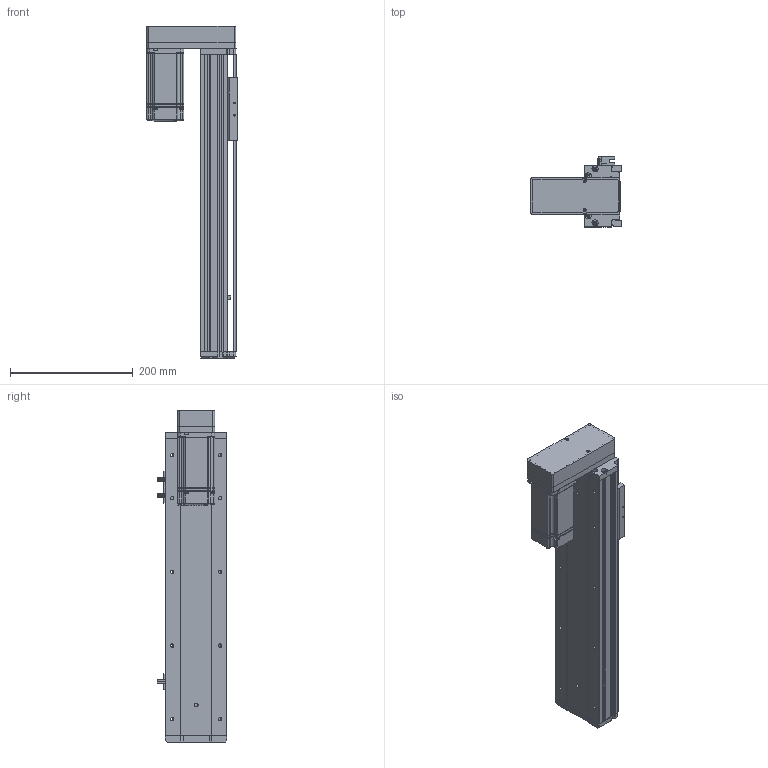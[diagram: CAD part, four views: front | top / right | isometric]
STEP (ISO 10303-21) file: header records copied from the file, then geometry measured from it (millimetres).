
FILE_DESCRIPTION (( 'STEP AP214' ), '1' );
FILE_NAME ('KSD100S-S300-MD-CM.STEP', '2019-08-30T03:15:02', ( '微软用户' ), ( '微软中国' ), 'SwSTEP 2.0', 'SolidWorks 2014', '' );
FILE_SCHEMA (( 'AUTOMOTIVE_DESIGN' ));
Length unit declared in the file: millimetre
Products named in the file (10): MHMD042G1CA_2_03; 悵誘欶奻狟殏; 100宽马达安装板连板上下折丝杆同步带; U倰嫖萇EEㄜSX672; 100宽防尘板丝杆300行程; 100遵鎮湛假蚾啣; 100宽滚珠螺姆安装板半封闭; 100遵傷啣; 100宽底板半封闭丝杆300行程; KSD100S-S300-MD-CM
Assembly tree (11 placements, depth 2):
  KSD100S-S300-MD-CM
    100宽底板半封闭丝杆300行程
    100遵傷啣
    100宽滚珠螺姆安装板半封闭
    100遵鎮湛假蚾啣
    100宽防尘板丝杆300行程
    U倰嫖萇EEㄜSX672  x3
    100宽马达安装板连板上下折丝杆同步带
    悵誘欶奻狟殏
    MHMD042G1CA_2_03
Bounding box: 147 x 113.7 x 540.5 mm (x, y, z)
Volume: 1179394.8 mm3; surface area: 483769 mm2
Topology: 10 solids, 11 shells, 1407 faces, 4013 edges, 2598 vertices
Faces by surface type: cylinder 638, plane 619, cone 132, bspline 18
Entity records: 52882 total; most frequent: CARTESIAN_POINT 9214, DIRECTION 6929, ORIENTED_EDGE 6566, EDGE_CURVE 3355, AXIS2_PLACEMENT_3D 2483, VERTEX_POINT 2222, LINE 1963, VECTOR 1963
